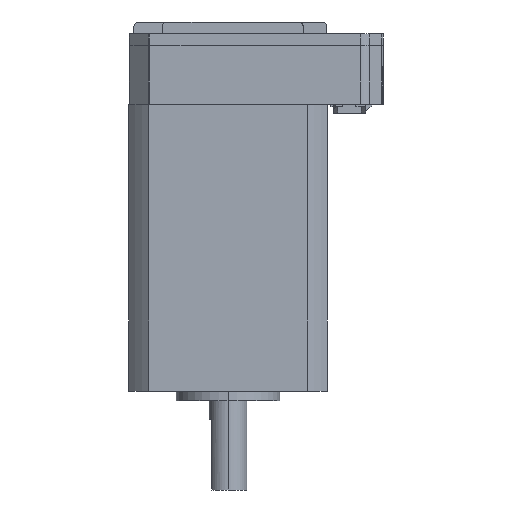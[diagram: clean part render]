
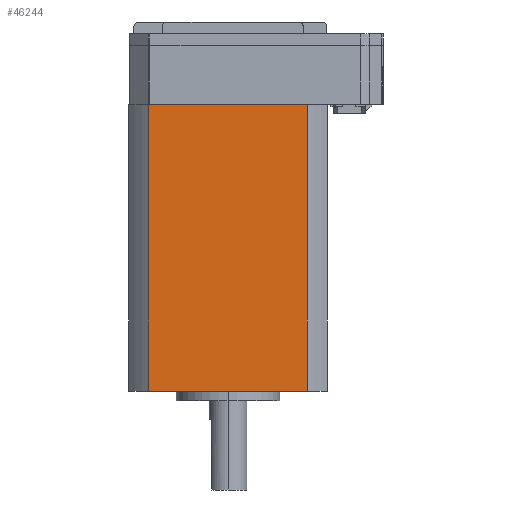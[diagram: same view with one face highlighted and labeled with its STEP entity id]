
A CAD part, left-side view. The second image highlights one B-rep face of the part: STEP entity #46244.
In plain terms, the highlighted planar face has unit normal (-1, 0, 0) as drawn and (1, 0, 0) by its records, which use the part's own axes.
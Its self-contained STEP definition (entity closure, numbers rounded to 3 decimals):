
#795 = CARTESIAN_POINT ( 'NONE',  ( 21.1, 16.846, 0. ) ) ;
#999 = PLANE ( 'NONE',  #3331 ) ;
#1475 = DIRECTION ( 'NONE',  ( -1., 0., 0. ) ) ;
#3331 = AXIS2_PLACEMENT_3D ( 'NONE', #30286, #1475, #26768 ) ;
#5062 = VECTOR ( 'NONE', #19048, 1000. ) ;
#7520 = ORIENTED_EDGE ( 'NONE', *, *, #30418, .T. ) ;
#8230 = ORIENTED_EDGE ( 'NONE', *, *, #38881, .T. ) ;
#8490 = ORIENTED_EDGE ( 'NONE', *, *, #23131, .F. ) ;
#11804 = VECTOR ( 'NONE', #31179, 1000. ) ;
#13538 = VERTEX_POINT ( 'NONE', #795 ) ;
#16441 = LINE ( 'NONE', #37770, #11804 ) ;
#17905 = VERTEX_POINT ( 'NONE', #22872 ) ;
#19048 = DIRECTION ( 'NONE',  ( 0., 1., 0. ) ) ;
#19056 = CARTESIAN_POINT ( 'NONE',  ( 21.1, -16.846, 61. ) ) ;
#22872 = CARTESIAN_POINT ( 'NONE',  ( 21.1, -16.846, 0. ) ) ;
#23131 = EDGE_CURVE ( 'NONE', #24013, #13538, #42815, .T. ) ;
#23351 = CARTESIAN_POINT ( 'NONE',  ( 21.1, 16.846, 61. ) ) ;
#23634 = EDGE_LOOP ( 'NONE', ( #8230, #8490, #43161, #7520 ) ) ;
#24013 = VERTEX_POINT ( 'NONE', #23351 ) ;
#24529 = VECTOR ( 'NONE', #28291, 1000. ) ;
#26272 = LINE ( 'NONE', #34000, #29201 ) ;
#26768 = DIRECTION ( 'NONE',  ( 0., -1., 0. ) ) ;
#28271 = EDGE_CURVE ( 'NONE', #34628, #24013, #16441, .T. ) ;
#28291 = DIRECTION ( 'NONE',  ( 0., 0., -1. ) ) ;
#29201 = VECTOR ( 'NONE', #34444, 1000. ) ;
#30286 = CARTESIAN_POINT ( 'NONE',  ( 21.1, 16.846, 61. ) ) ;
#30418 = EDGE_CURVE ( 'NONE', #34628, #17905, #26272, .T. ) ;
#31179 = DIRECTION ( 'NONE',  ( 0., 1., 0. ) ) ;
#33567 = FACE_OUTER_BOUND ( 'NONE', #23634, .T. ) ;
#34000 = CARTESIAN_POINT ( 'NONE',  ( 21.1, -16.846, 61. ) ) ;
#34444 = DIRECTION ( 'NONE',  ( 0., 0., -1. ) ) ;
#34628 = VERTEX_POINT ( 'NONE', #19056 ) ;
#36585 = LINE ( 'NONE', #43901, #5062 ) ;
#37770 = CARTESIAN_POINT ( 'NONE',  ( 21.1, 16.846, 61. ) ) ;
#38881 = EDGE_CURVE ( 'NONE', #17905, #13538, #36585, .T. ) ;
#42815 = LINE ( 'NONE', #43930, #24529 ) ;
#43161 = ORIENTED_EDGE ( 'NONE', *, *, #28271, .F. ) ;
#43901 = CARTESIAN_POINT ( 'NONE',  ( 21.1, 16.846, 0. ) ) ;
#43930 = CARTESIAN_POINT ( 'NONE',  ( 21.1, 16.846, 61. ) ) ;
#46244 = ADVANCED_FACE ( 'NONE', ( #33567 ), #999, .F. ) ;
